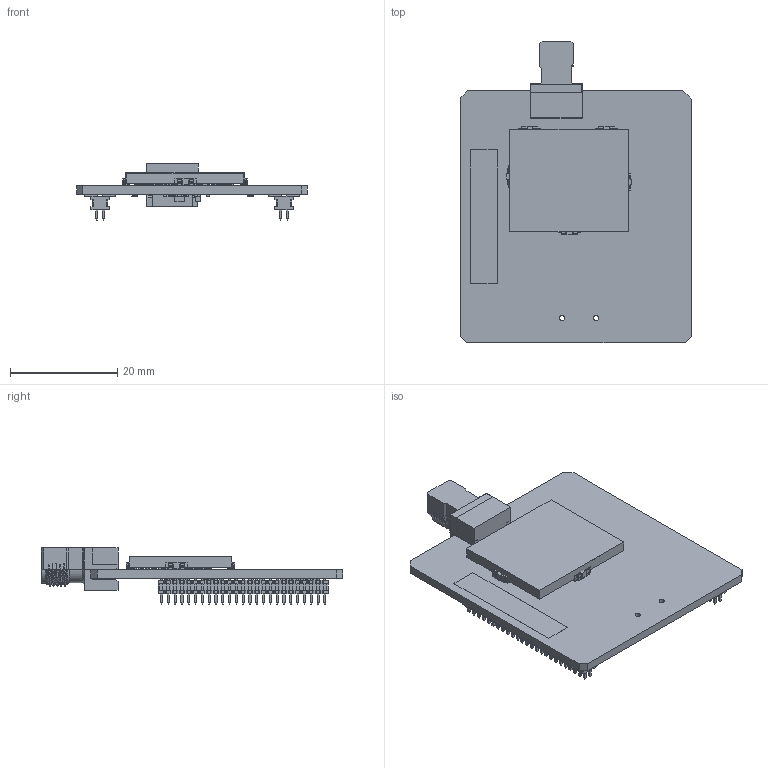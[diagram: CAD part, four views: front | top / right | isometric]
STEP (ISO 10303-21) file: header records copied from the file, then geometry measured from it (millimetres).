
FILE_DESCRIPTION(('Open CASCADE Model'),'2;1');
FILE_NAME('Open CASCADE Shape Model','2025-03-10T11:31:49',('Author'),( 'Open CASCADE'),'Open CASCADE STEP processor 7.5','Open CASCADE 7.5' ,'Unknown');
FILE_SCHEMA(('AUTOMOTIVE_DESIGN { 1 0 10303 214 1 1 1 1 }'));
Length unit declared in the file: millimetre
Products named in the file (120): PCB; Board; Open CASCADE STEP translator 7.5 1.1.1; SB20; R0402; 7082724128; Extruded; SB7; 7082724288; SB32; SB22; SB33; SB28; SB15; SB11; SB41; C11; C0603; 7083171408; L7; FERRITE_BEAD_0603; User Library-FB_1608-1_Pad001; User Library-FB_1608-1_Cut; 7083172208; L6; L0805; 7083171728; L5; C0402; 7083173568; C23; C21; HW1; Shield_Miniboard_V2; U1; 7083170768; 7082732528; Sphere; 7082728448; Cylinder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
Assembly tree (259 placements, depth 4):
  PCB
    Board
      Open CASCADE STEP translator 7.5 1.1.1
    SB20
      R0402
      7082724128
        Extruded
    SB7
      R0402
      7082724288
        Extruded
    SB32
      R0402
      7082724288
        Extruded
    SB22
      R0402
      7082724288
        Extruded
    SB33
      R0402
      7082724288
        Extruded
    SB28
      R0402
      7082724288
        Extruded
    SB15
      R0402
      7082724288
        Extruded
    SB11
      R0402
      7082724128
        Extruded
    SB41
      R0402
      7082724288
        Extruded
    C11
      C0603
      7083171408
        Extruded
    L7
      FERRITE_BEAD_0603
        User Library-FB_1608-1_Pad001
        User Library-FB_1608-1_Cut
      7083172208
        Extruded
    L6
      L0805
      7083171728
        Extruded
    L5
      C0402
      7083173568
        Extruded
    C23
      C0402
      7083173568
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Bounding box: 43 x 56.21 x 10.5 mm (x, y, z)
Volume: 4670.4 mm3; surface area: 9836 mm2
Topology: 421 solids, 421 shells, 12733 faces, 30098 edges, 17450 vertices
Faces by surface type: plane 6413, cylinder 3174, bspline 1705, sphere 1127, torus 180, revolution 128, cone 6
Full cylindrical faces by diameter (mm): 0.6 x1, 0.991 x1, 1 x2, 4.674 x1, 5.08 x1, 5.385 x1
Entity records: 107033 total; most frequent: CARTESIAN_POINT 26173, ORIENTED_EDGE 14756, DIRECTION 14013, EDGE_CURVE 7378, LINE 6315, VECTOR 6315, VERTEX_POINT 4673, AXIS2_PLACEMENT_3D 3845
